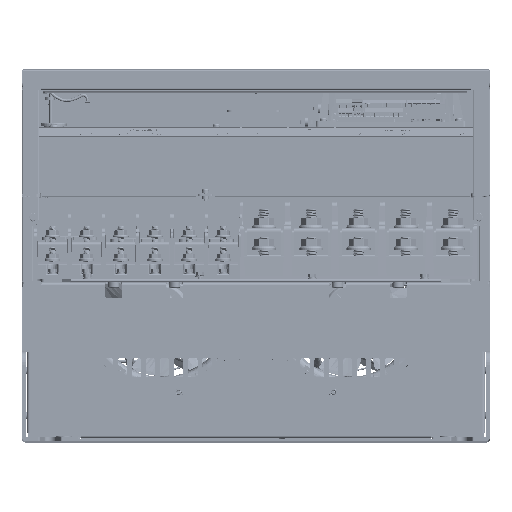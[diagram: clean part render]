
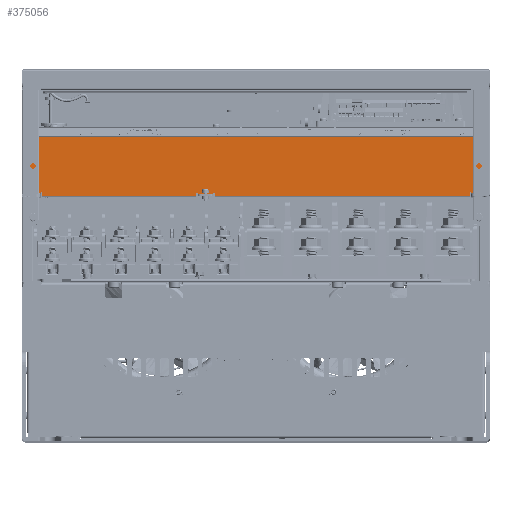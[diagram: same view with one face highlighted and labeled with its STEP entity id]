
A CAD part, top view. The second image highlights one B-rep face of the part: STEP entity #375056.
In plain terms, the highlighted planar face has unit normal (0, 0, 1).
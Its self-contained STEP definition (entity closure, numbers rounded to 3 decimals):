
#372353=DIRECTION('',(0.,1.,0.));
#372354=VECTOR('',#372353,60.1);
#372355=CARTESIAN_POINT('',(244.05,265.5,284.2));
#372356=LINE('',#372355,#372354);
#372361=DIRECTION('',(-1.,0.,0.));
#372362=VECTOR('',#372361,16.4);
#372363=CARTESIAN_POINT('',(-45.8,263.9,284.2));
#372364=LINE('',#372363,#372362);
#372365=DIRECTION('',(-1.,0.,0.));
#372366=VECTOR('',#372365,2.);
#372367=CARTESIAN_POINT('',(-62.2,265.5,284.2));
#372368=LINE('',#372367,#372366);
#372369=DIRECTION('',(0.,-1.,0.));
#372370=VECTOR('',#372369,3.3);
#372371=CARTESIAN_POINT('',(-64.2,265.5,284.2));
#372372=LINE('',#372371,#372370);
#372373=DIRECTION('',(0.,1.,0.));
#372374=VECTOR('',#372373,3.3);
#372375=CARTESIAN_POINT('',(-228.2,262.2,284.2));
#372376=LINE('',#372375,#372374);
#372377=CARTESIAN_POINT('',(-229.2,265.5,284.2));
#372378=DIRECTION('',(0.,0.,1.));
#372379=DIRECTION('',(1.,0.,0.));
#372380=AXIS2_PLACEMENT_3D('',#372377,#372378,#372379);
#372382=DIRECTION('',(-1.,0.,0.));
#372383=VECTOR('',#372382,13.85);
#372384=CARTESIAN_POINT('',(-230.2,265.5,284.2));
#372385=LINE('',#372384,#372383);
#372386=DIRECTION('',(0.,1.,0.));
#372387=VECTOR('',#372386,60.1);
#372388=CARTESIAN_POINT('',(-244.05,265.5,284.2));
#372389=LINE('',#372388,#372387);
#372390=DIRECTION('',(1.,0.,0.));
#372391=VECTOR('',#372390,488.1);
#372392=CARTESIAN_POINT('',(-244.05,325.6,284.2));
#372393=LINE('',#372392,#372391);
#372394=DIRECTION('',(-1.,0.,0.));
#372395=VECTOR('',#372394,13.85);
#372396=CARTESIAN_POINT('',(244.05,265.5,284.2));
#372397=LINE('',#372396,#372395);
#372398=CARTESIAN_POINT('',(229.2,265.5,284.2));
#372399=DIRECTION('',(0.,0.,1.));
#372400=DIRECTION('',(1.,0.,0.));
#372401=AXIS2_PLACEMENT_3D('',#372398,#372399,#372400);
#372403=DIRECTION('',(-1.,0.,0.));
#372404=VECTOR('',#372403,2.);
#372405=CARTESIAN_POINT('',(-43.8,265.5,284.2));
#372406=LINE('',#372405,#372404);
#372484=DIRECTION('',(0.,1.,0.));
#372485=VECTOR('',#372484,1.6);
#372486=CARTESIAN_POINT('',(-45.8,263.9,284.2));
#372487=LINE('',#372486,#372485);
#372500=DIRECTION('',(0.,-1.,0.));
#372501=VECTOR('',#372500,3.3);
#372502=CARTESIAN_POINT('',(-43.8,265.5,284.2));
#372503=LINE('',#372502,#372501);
#372728=DIRECTION('',(1.,0.,0.));
#372729=VECTOR('',#372728,164.);
#372730=CARTESIAN_POINT('',(-228.2,262.2,284.2));
#372731=LINE('',#372730,#372729);
#372828=DIRECTION('',(0.,-1.,0.));
#372829=VECTOR('',#372828,1.6);
#372830=CARTESIAN_POINT('',(-62.2,265.5,284.2));
#372831=LINE('',#372830,#372829);
#374067=DIRECTION('',(1.,0.,0.));
#374068=VECTOR('',#374067,272.);
#374069=CARTESIAN_POINT('',(-43.8,262.2,284.2));
#374070=LINE('',#374069,#374068);
#374101=DIRECTION('',(0.,1.,0.));
#374102=VECTOR('',#374101,3.3);
#374103=CARTESIAN_POINT('',(228.2,262.2,284.2));
#374104=LINE('',#374103,#374102);
#374202=CARTESIAN_POINT('',(230.2,265.5,284.2));
#374203=VERTEX_POINT('',#374202);
#374204=CARTESIAN_POINT('',(244.05,265.5,284.2));
#374205=VERTEX_POINT('',#374204);
#374256=CARTESIAN_POINT('',(244.05,325.6,284.2));
#374257=VERTEX_POINT('',#374256);
#374260=CARTESIAN_POINT('',(-45.8,263.9,284.2));
#374261=CARTESIAN_POINT('',(-62.2,263.9,284.2));
#374262=VERTEX_POINT('',#374260);
#374263=VERTEX_POINT('',#374261);
#374264=CARTESIAN_POINT('',(-62.2,265.5,284.2));
#374265=VERTEX_POINT('',#374264);
#374266=CARTESIAN_POINT('',(-64.2,265.5,284.2));
#374267=VERTEX_POINT('',#374266);
#374268=CARTESIAN_POINT('',(-64.2,262.2,284.2));
#374269=VERTEX_POINT('',#374268);
#374270=CARTESIAN_POINT('',(-228.2,262.2,284.2));
#374271=VERTEX_POINT('',#374270);
#374272=CARTESIAN_POINT('',(-228.2,265.5,284.2));
#374273=VERTEX_POINT('',#374272);
#374274=CARTESIAN_POINT('',(-230.2,265.5,284.2));
#374275=VERTEX_POINT('',#374274);
#374276=CARTESIAN_POINT('',(-244.05,265.5,284.2));
#374277=VERTEX_POINT('',#374276);
#374278=CARTESIAN_POINT('',(-244.05,325.6,284.2));
#374279=VERTEX_POINT('',#374278);
#374280=CARTESIAN_POINT('',(228.2,265.5,284.2));
#374281=VERTEX_POINT('',#374280);
#374282=CARTESIAN_POINT('',(228.2,262.2,284.2));
#374283=VERTEX_POINT('',#374282);
#374284=CARTESIAN_POINT('',(-43.8,262.2,284.2));
#374285=VERTEX_POINT('',#374284);
#374286=CARTESIAN_POINT('',(-43.8,265.5,284.2));
#374287=VERTEX_POINT('',#374286);
#374288=CARTESIAN_POINT('',(-45.8,265.5,284.2));
#374289=VERTEX_POINT('',#374288);
#375015=CARTESIAN_POINT('',(247.,325.6,284.2));
#375016=DIRECTION('',(0.,0.,1.));
#375017=DIRECTION('',(0.,-1.,0.));
#375018=AXIS2_PLACEMENT_3D('',#375015,#375016,#375017);
#375019=PLANE('',#375018);
#375021=ORIENTED_EDGE('',*,*,#375020,.T.);
#375023=ORIENTED_EDGE('',*,*,#375022,.F.);
#375025=ORIENTED_EDGE('',*,*,#375024,.T.);
#375027=ORIENTED_EDGE('',*,*,#375026,.T.);
#375029=ORIENTED_EDGE('',*,*,#375028,.F.);
#375031=ORIENTED_EDGE('',*,*,#375030,.T.);
#375033=ORIENTED_EDGE('',*,*,#375032,.T.);
#375035=ORIENTED_EDGE('',*,*,#375034,.T.);
#375037=ORIENTED_EDGE('',*,*,#375036,.T.);
#375039=ORIENTED_EDGE('',*,*,#375038,.T.);
#375040=ORIENTED_EDGE('',*,*,#375005,.F.);
#375041=ORIENTED_EDGE('',*,*,#374767,.T.);
#375043=ORIENTED_EDGE('',*,*,#375042,.T.);
#375045=ORIENTED_EDGE('',*,*,#375044,.F.);
#375047=ORIENTED_EDGE('',*,*,#375046,.F.);
#375049=ORIENTED_EDGE('',*,*,#375048,.F.);
#375051=ORIENTED_EDGE('',*,*,#375050,.T.);
#375053=ORIENTED_EDGE('',*,*,#375052,.F.);
#375054=EDGE_LOOP('',(#375021,#375023,#375025,#375027,#375029,#375031,#375033,
#375035,#375037,#375039,#375040,#375041,#375043,#375045,#375047,#375049,#375051,
#375053));
#375055=FACE_OUTER_BOUND('',#375054,.F.);
#372381=CIRCLE('',#372380,1.);
#372402=CIRCLE('',#372401,1.);
#374767=EDGE_CURVE('',#374205,#374203,#372397,.T.);
#375005=EDGE_CURVE('',#374205,#374257,#372356,.T.);
#375020=EDGE_CURVE('',#374262,#374263,#372364,.T.);
#375022=EDGE_CURVE('',#374265,#374263,#372831,.T.);
#375024=EDGE_CURVE('',#374265,#374267,#372368,.T.);
#375026=EDGE_CURVE('',#374267,#374269,#372372,.T.);
#375028=EDGE_CURVE('',#374271,#374269,#372731,.T.);
#375030=EDGE_CURVE('',#374271,#374273,#372376,.T.);
#375032=EDGE_CURVE('',#374273,#374275,#372381,.T.);
#375034=EDGE_CURVE('',#374275,#374277,#372385,.T.);
#375036=EDGE_CURVE('',#374277,#374279,#372389,.T.);
#375038=EDGE_CURVE('',#374279,#374257,#372393,.T.);
#375042=EDGE_CURVE('',#374203,#374281,#372402,.T.);
#375044=EDGE_CURVE('',#374283,#374281,#374104,.T.);
#375046=EDGE_CURVE('',#374285,#374283,#374070,.T.);
#375048=EDGE_CURVE('',#374287,#374285,#372503,.T.);
#375050=EDGE_CURVE('',#374287,#374289,#372406,.T.);
#375052=EDGE_CURVE('',#374262,#374289,#372487,.T.);
#375056=ADVANCED_FACE('',(#375055),#375019,.T.);
